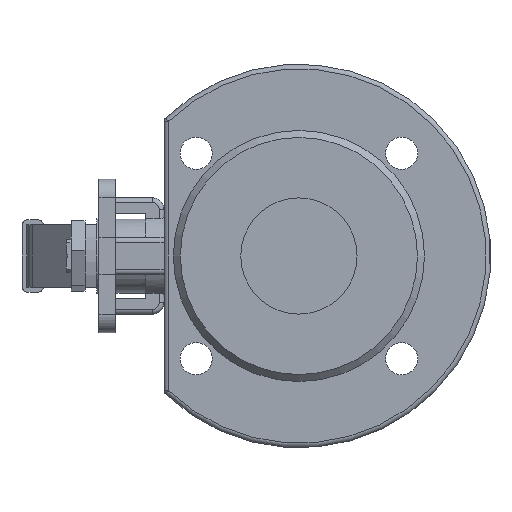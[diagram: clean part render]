
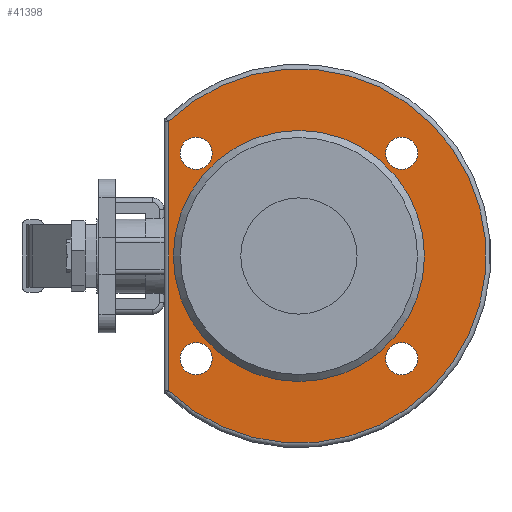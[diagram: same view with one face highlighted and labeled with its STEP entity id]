
A CAD part, left-side view. The second image highlights one B-rep face of the part: STEP entity #41398.
In plain terms, the highlighted planar face has unit normal (-1, 0, 0).
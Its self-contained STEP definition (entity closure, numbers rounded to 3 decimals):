
#41085=CARTESIAN_POINT('',(-37.0,56.,57.829));
#41086=VERTEX_POINT('',#41085);
#41094=CARTESIAN_POINT('',(-37.0,56.,-57.829));
#41095=VERTEX_POINT('',#41094);
#41096=CARTESIAN_POINT('',(-37.0,0.0,0.0));
#41097=DIRECTION('',(1.0,0.0,0.0));
#41098=DIRECTION('',(0.0,-1.0,0.0));
#41099=AXIS2_PLACEMENT_3D('',#41096,#41097,#41098);
#41100=CIRCLE('',#41099,80.5);
#41101=EDGE_CURVE('',#41086,#41095,#41100,.T.);
#41151=CARTESIAN_POINT('',(-37.0,56.,-57.829));
#41152=DIRECTION('',(0.0,0.0,1.0));
#41153=VECTOR('',#41152,115.659);
#41154=LINE('',#41151,#41153);
#41155=EDGE_CURVE('',#41095,#41086,#41154,.T.);
#41334=CARTESIAN_POINT('',(-37.0,68.25,0.0));
#41335=DIRECTION('',(-1.0,0.0,0.0));
#41336=DIRECTION('',(0.0,0.0,1.0));
#41337=AXIS2_PLACEMENT_3D('',#41334,#41335,#41336);
#41338=PLANE('',#41337);
#41339=ORIENTED_EDGE('',*,*,#41101,.F.);
#41340=ORIENTED_EDGE('',*,*,#41155,.F.);
#41341=EDGE_LOOP('',(#41339,#41340));
#41342=FACE_OUTER_BOUND('',#41341,.T.);
#41343=CARTESIAN_POINT('',(-37.0,54.,0.0));
#41344=VERTEX_POINT('',#41343);
#41345=CARTESIAN_POINT('',(-37.0,0.0,0.0));
#41346=DIRECTION('',(1.0,0.0,0.0));
#41347=DIRECTION('',(0.0,1.0,0.0));
#41348=AXIS2_PLACEMENT_3D('',#41345,#41346,#41347);
#41349=CIRCLE('',#41348,54.);
#41350=EDGE_CURVE('',#41344,#41344,#41349,.T.);
#41351=ORIENTED_EDGE('',*,*,#41350,.T.);
#41352=EDGE_LOOP('',(#41351));
#41353=FACE_BOUND('',#41352,.T.);
#41354=CARTESIAN_POINT('',(-37.0,-44.194,51.112));
#41355=VERTEX_POINT('',#41354);
#41356=CARTESIAN_POINT('',(-37.,-44.194,44.194));
#41357=DIRECTION('',(1.0,0.0,0.0));
#41358=DIRECTION('',(0.0,0.0,1.0));
#41359=AXIS2_PLACEMENT_3D('',#41356,#41357,#41358);
#41360=CIRCLE('',#41359,6.918);
#41361=EDGE_CURVE('',#41355,#41355,#41360,.T.);
#41362=ORIENTED_EDGE('',*,*,#41361,.T.);
#41363=EDGE_LOOP('',(#41362));
#41364=FACE_BOUND('',#41363,.T.);
#41365=CARTESIAN_POINT('',(-37.0,44.194,-37.277));
#41366=VERTEX_POINT('',#41365);
#41367=CARTESIAN_POINT('',(-37.,44.194,-44.194));
#41368=DIRECTION('',(1.0,0.0,0.0));
#41369=DIRECTION('',(0.0,0.0,1.0));
#41370=AXIS2_PLACEMENT_3D('',#41367,#41368,#41369);
#41371=CIRCLE('',#41370,6.918);
#41372=EDGE_CURVE('',#41366,#41366,#41371,.T.);
#41373=ORIENTED_EDGE('',*,*,#41372,.T.);
#41374=EDGE_LOOP('',(#41373));
#41375=FACE_BOUND('',#41374,.T.);
#41376=CARTESIAN_POINT('',(-37.0,44.194,51.112));
#41377=VERTEX_POINT('',#41376);
#41378=CARTESIAN_POINT('',(-37.,44.194,44.194));
#41379=DIRECTION('',(1.0,0.0,0.0));
#41380=DIRECTION('',(0.0,0.0,1.0));
#41381=AXIS2_PLACEMENT_3D('',#41378,#41379,#41380);
#41382=CIRCLE('',#41381,6.918);
#41383=EDGE_CURVE('',#41377,#41377,#41382,.T.);
#41384=ORIENTED_EDGE('',*,*,#41383,.T.);
#41385=EDGE_LOOP('',(#41384));
#41386=FACE_BOUND('',#41385,.T.);
#41387=CARTESIAN_POINT('',(-37.0,-44.194,-37.277));
#41388=VERTEX_POINT('',#41387);
#41389=CARTESIAN_POINT('',(-37.,-44.194,-44.194));
#41390=DIRECTION('',(1.0,0.0,0.0));
#41391=DIRECTION('',(0.0,0.0,1.0));
#41392=AXIS2_PLACEMENT_3D('',#41389,#41390,#41391);
#41393=CIRCLE('',#41392,6.918);
#41394=EDGE_CURVE('',#41388,#41388,#41393,.T.);
#41395=ORIENTED_EDGE('',*,*,#41394,.T.);
#41396=EDGE_LOOP('',(#41395));
#41397=FACE_BOUND('',#41396,.T.);
#41398=ADVANCED_FACE('',(#41342,#41353,#41364,#41375,#41386,#41397),#41338,.T.);
